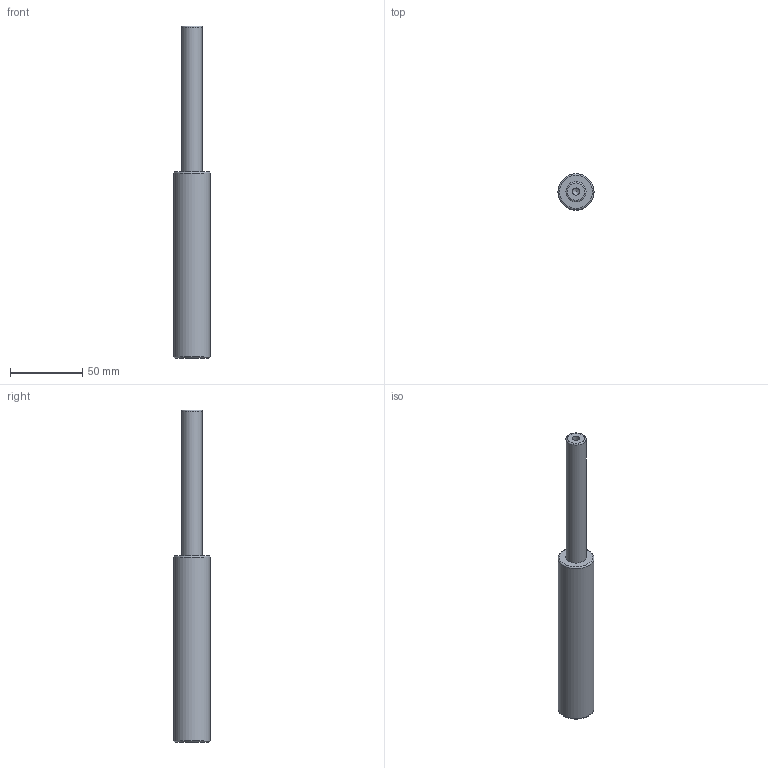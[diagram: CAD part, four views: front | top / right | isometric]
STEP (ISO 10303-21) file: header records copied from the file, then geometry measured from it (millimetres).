
FILE_DESCRIPTION(/* description */ (''),/* implementation_level */ '2;1');
FILE_NAME(/* name */ 'NV5-SMLX.25x100.stp',/* time_stamp */ '2018-08-31T16:08:38+02:00',/* author */ (''),/* organization */ (''),/* preprocessor_version */ 'ST-DEVELOPER v16',/* originating_system */ 'SIEMENS PLM Software NX 10.0',/* authorisation */ '');
FILE_SCHEMA (('AUTOMOTIVE_DESIGN { 1 0 10303 214 3 1 1 1 }'));
Length unit declared in the file: millimetre
Products named in the file (1): NV5-SMLX.25x100
Bounding box: 25 x 25 x 230 mm (x, y, z)
Volume: 78376.6 mm3; surface area: 15820.1 mm2
Topology: 1 solids, 1 shells, 12 faces, 24 edges, 15 vertices
Faces by surface type: cylinder 4, torus 3, plane 3, cone 2
Full cylindrical faces by diameter (mm): 5 x2, 14 x1, 25 x1
Entity records: 266 total; most frequent: DIRECTION 48, CARTESIAN_POINT 37, FACE_BOUND 24, AXIS2_PLACEMENT_3D 24, EDGE_LOOP 22, ORIENTED_EDGE 22, VERTEX_POINT 13, ADVANCED_FACE 12
